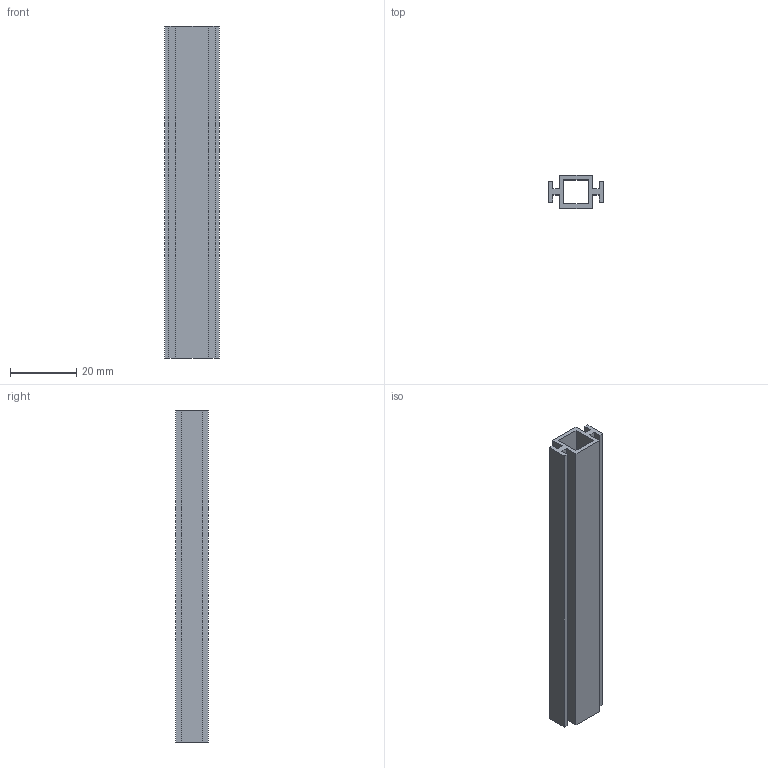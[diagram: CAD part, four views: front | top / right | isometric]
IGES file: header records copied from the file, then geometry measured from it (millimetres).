
Global section: file name: No Iges File Name specified; native system: Autodesk Inventor 2012; preprocessor: AutoDesk Inventor Iges Exporter R2012; author: anna.b; date: 20130718.144938; units: millimetre
Bounding box: 16.51 x 9.91 x 100 mm (x, y, z)
Volume: 6722.6 mm3; surface area: 10192.9 mm2
Topology: 1 solids, 1 shells, 26 faces, 72 edges, 48 vertices
Faces by surface type: plane 26
